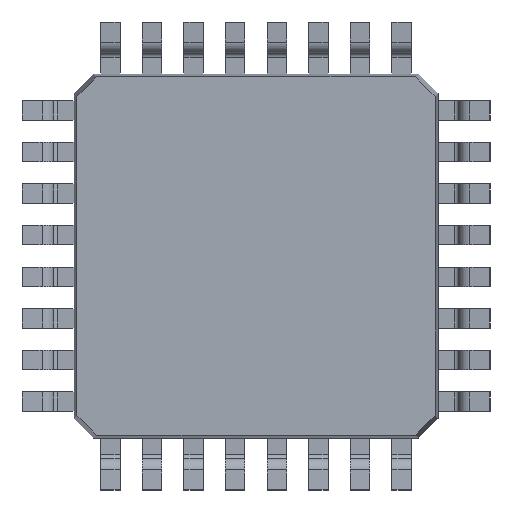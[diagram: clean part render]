
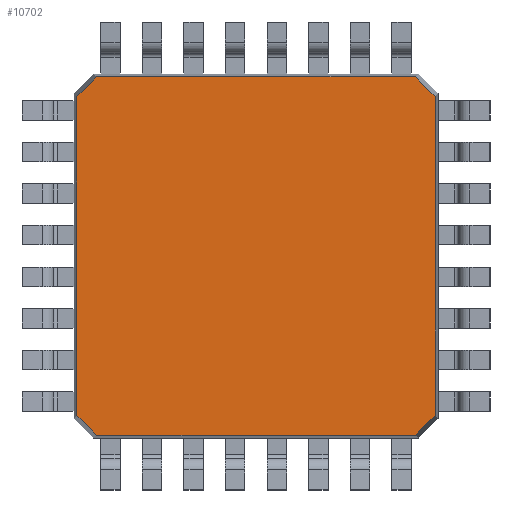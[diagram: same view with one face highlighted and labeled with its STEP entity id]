
A CAD part, front view. The second image highlights one B-rep face of the part: STEP entity #10702.
In plain terms, the highlighted planar face has unit normal (0, -1, 0).
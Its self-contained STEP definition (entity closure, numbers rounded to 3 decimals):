
#307 = CARTESIAN_POINT ( 'NONE',  ( 3.061, -0.525, 3.444 ) ) ;
#457 = EDGE_CURVE ( 'NONE', #20335, #4788, #17433, .T. ) ;
#598 = CARTESIAN_POINT ( 'NONE',  ( 0., -0.525, -3.444 ) ) ;
#678 = DIRECTION ( 'NONE',  ( 0.712, 0., -0.702 ) ) ;
#1248 = ORIENTED_EDGE ( 'NONE', *, *, #17490, .T. ) ;
#1528 = CARTESIAN_POINT ( 'NONE',  ( 3.444, -0.525, -3.061 ) ) ;
#1691 = ORIENTED_EDGE ( 'NONE', *, *, #5409, .T. ) ;
#1953 = VECTOR ( 'NONE', #4435, 1000. ) ;
#2364 = EDGE_LOOP ( 'NONE', ( #1248, #20519, #13467, #8345, #5533, #5254, #1691, #20694 ) ) ;
#2606 = LINE ( 'NONE', #15693, #8468 ) ;
#2942 = DIRECTION ( 'NONE',  ( 0.702, 0., 0.712 ) ) ;
#3383 = VECTOR ( 'NONE', #5881, 1000. ) ;
#4114 = VECTOR ( 'NONE', #19618, 1000. ) ;
#4435 = DIRECTION ( 'NONE',  ( -1., 0., 0. ) ) ;
#4706 = LINE ( 'NONE', #12176, #4114 ) ;
#4788 = VERTEX_POINT ( 'NONE', #23062 ) ;
#5254 = ORIENTED_EDGE ( 'NONE', *, *, #14732, .T. ) ;
#5276 = CARTESIAN_POINT ( 'NONE',  ( 0., -0.525, 0. ) ) ;
#5409 = EDGE_CURVE ( 'NONE', #23604, #17984, #15324, .T. ) ;
#5533 = ORIENTED_EDGE ( 'NONE', *, *, #17129, .T. ) ;
#5881 = DIRECTION ( 'NONE',  ( -0.702, 0., -0.712 ) ) ;
#6655 = CARTESIAN_POINT ( 'NONE',  ( -3.061, -0.525, -3.444 ) ) ;
#6925 = VECTOR ( 'NONE', #2942, 1000. ) ;
#6947 = VECTOR ( 'NONE', #678, 1000. ) ;
#6954 = DIRECTION ( 'NONE',  ( 0., 0., -1. ) ) ;
#7480 = VERTEX_POINT ( 'NONE', #1528 ) ;
#7570 = CARTESIAN_POINT ( 'NONE',  ( 3.067, -0.525, -3.444 ) ) ;
#7716 = LINE ( 'NONE', #22620, #3383 ) ;
#8345 = ORIENTED_EDGE ( 'NONE', *, *, #21917, .T. ) ;
#8468 = VECTOR ( 'NONE', #19481, 1000. ) ;
#8677 = AXIS2_PLACEMENT_3D ( 'NONE', #5276, #23964, #9323 ) ;
#9005 = CARTESIAN_POINT ( 'NONE',  ( 3.444, -0.525, 3.067 ) ) ;
#9323 = DIRECTION ( 'NONE',  ( 1., 0., 0. ) ) ;
#10289 = EDGE_CURVE ( 'NONE', #4788, #11207, #11980, .T. ) ;
#10702 = ADVANCED_FACE ( 'NONE', ( #21899 ), #20081, .F. ) ;
#11207 = VERTEX_POINT ( 'NONE', #7570 ) ;
#11769 = LINE ( 'NONE', #21050, #6925 ) ;
#11786 = CARTESIAN_POINT ( 'NONE',  ( 0., -0.525, 3.444 ) ) ;
#11800 = VERTEX_POINT ( 'NONE', #9005 ) ;
#11980 = LINE ( 'NONE', #598, #21538 ) ;
#12176 = CARTESIAN_POINT ( 'NONE',  ( 3.444, -0.525, 0. ) ) ;
#12714 = VECTOR ( 'NONE', #6954, 1000. ) ;
#13294 = CARTESIAN_POINT ( 'NONE',  ( -3.067, -0.525, 3.444 ) ) ;
#13467 = ORIENTED_EDGE ( 'NONE', *, *, #10289, .T. ) ;
#14555 = CARTESIAN_POINT ( 'NONE',  ( -3.444, -0.525, 3.061 ) ) ;
#14732 = EDGE_CURVE ( 'NONE', #11800, #23604, #2606, .T. ) ;
#15023 = EDGE_CURVE ( 'NONE', #17984, #15130, #7716, .T. ) ;
#15130 = VERTEX_POINT ( 'NONE', #14555 ) ;
#15324 = LINE ( 'NONE', #11786, #1953 ) ;
#15693 = CARTESIAN_POINT ( 'NONE',  ( 3.061, -0.525, 3.444 ) ) ;
#17129 = EDGE_CURVE ( 'NONE', #7480, #11800, #4706, .T. ) ;
#17433 = LINE ( 'NONE', #6655, #6947 ) ;
#17490 = EDGE_CURVE ( 'NONE', #15130, #20335, #21980, .T. ) ;
#17575 = CARTESIAN_POINT ( 'NONE',  ( -3.444, -0.525, -3.067 ) ) ;
#17984 = VERTEX_POINT ( 'NONE', #13294 ) ;
#19300 = DIRECTION ( 'NONE',  ( 1., 0., 0. ) ) ;
#19481 = DIRECTION ( 'NONE',  ( -0.712, 0., 0.702 ) ) ;
#19618 = DIRECTION ( 'NONE',  ( 0., 0., 1. ) ) ;
#20081 = PLANE ( 'NONE',  #8677 ) ;
#20162 = CARTESIAN_POINT ( 'NONE',  ( -3.444, -0.525, 0. ) ) ;
#20335 = VERTEX_POINT ( 'NONE', #17575 ) ;
#20519 = ORIENTED_EDGE ( 'NONE', *, *, #457, .T. ) ;
#20694 = ORIENTED_EDGE ( 'NONE', *, *, #15023, .T. ) ;
#21050 = CARTESIAN_POINT ( 'NONE',  ( 3.444, -0.525, -3.061 ) ) ;
#21538 = VECTOR ( 'NONE', #19300, 1000. ) ;
#21899 = FACE_OUTER_BOUND ( 'NONE', #2364, .T. ) ;
#21917 = EDGE_CURVE ( 'NONE', #11207, #7480, #11769, .T. ) ;
#21980 = LINE ( 'NONE', #20162, #12714 ) ;
#22620 = CARTESIAN_POINT ( 'NONE',  ( -3.444, -0.525, 3.061 ) ) ;
#23062 = CARTESIAN_POINT ( 'NONE',  ( -3.061, -0.525, -3.444 ) ) ;
#23604 = VERTEX_POINT ( 'NONE', #307 ) ;
#23964 = DIRECTION ( 'NONE',  ( 0., 1., 0. ) ) ;
